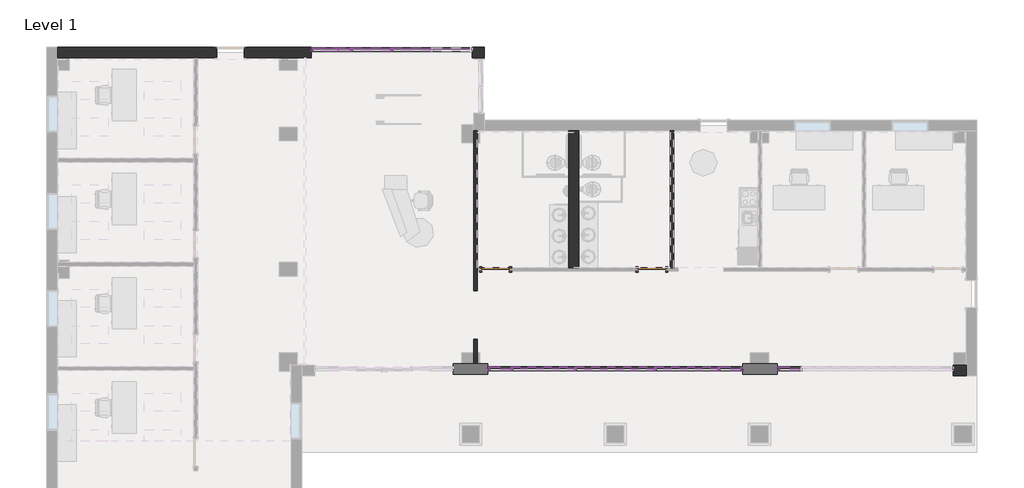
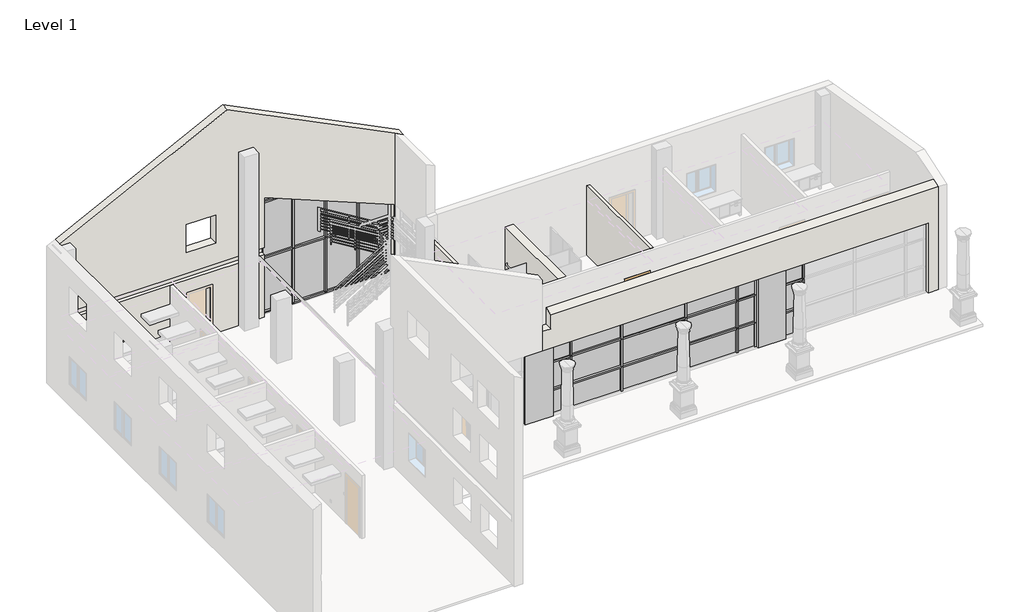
# One storey, part 2 of 8: 63 members, 29 plates, 6 walls, 2 doors.
"""IFC4 building model written with IfcOpenShell, lengths in millimetres."""

from ifc_helpers import new_model, si_unit, origin, origin_with_axes, place, context, project, spatial, polyline, outline, extrude, faceted_brep, transform, mapped, element, save
from components import door_eb9f8b14, door_88503111, member_a715cb85, member_2b49869a, member_4f1c84db, member_e69b4e5a, member_c7c5a8a0, member_13dc6413, member_3374d9b6, member_830c086e, member_f0fea5a5, member_ee409385, member_d635bea1, member_5783932f, member_ba1b3d85, member_98b79ab6, member_3ca69e07, member_308ea782, member_d4faf497, member_0a1949f2, member_c8a9c9a2, member_c459f87c, member_c4c0bdfb, member_631b13d6, member_2dfc6920, system_panel_glazed_93fe6fa7, system_panel_glazed_6ce5e085, system_panel_glazed_63f474c4, system_panel_glazed_4b691734, system_panel_glazed_53b4157c, system_panel_glazed_7b5ce646, system_panel_glazed_2dd6ead6, system_panel_glazed_6caac039, system_panel_glazed_ef97d2b3, system_panel_glazed_72e0a84c, system_panel_glazed_84a4ac58, system_panel_glazed_729bb18e, system_panel_glazed_b58b5e35, system_panel_glazed_53edb0c8, system_panel_solid_6039f36e, system_panel_solid_0ed6c75d

model = new_model("IFC4")

# Units and contexts
model_context = context("Model", 3, world=origin())
ifc_project = project(units=[si_unit("LENGTHUNIT", "METRE", prefix="MILLI")], contexts=[model_context])

# Site, building, storey
site = spatial("IfcSite", under=ifc_project)
building = spatial("IfcBuilding", under=site)
storey = spatial("IfcBuildingStorey", under=building, Name="Level 1", Elevation=0.0)

# Doors
placement = place(None, origin())
door_shape = door_eb9f8b14(model_context)
element("IfcDoor", 1, ObjectType="Single-Flush : 36\" x 84\"", at=placement, inside=storey, context=model_context, shape_type="MappedRepresentation", body=[
    mapped(door_shape, transform((1075.2733448, 3496.4480424, 0.0), x_axis=(-1.0, 0.0, 0.0), y_axis=(0.0, -1.0, 0.0), z_axis=(0.0, 0.0, 1.0))),
])
door_2_shape = door_88503111(model_context)
element("IfcDoor", 2, ObjectType="Single-Flush : 36\" x 84\"", at=placement, inside=storey, context=model_context, shape_type="MappedRepresentation", body=[
    mapped(door_2_shape, transform((6294.9733448, 3496.4480424, 0.0), x_axis=(1.0, 0.0, 0.0), y_axis=(0.0, 1.0, 0.0), z_axis=(0.0, 0.0, 1.0))),
])

# Members
member_shape = member_a715cb85(model_context)
element("IfcMember", 3, ObjectType="Rectangular Mullion : 2.5\" x 5\" Rectangular", at=placement, inside=storey, context=model_context, shape_type="MappedRepresentation", body=[
    mapped(member_shape, transform((1611.8483448, 175.3980424, 0.0), x_axis=(1.0, 0.0, 0.0), y_axis=(0.0, -1.0, 0.0), z_axis=(0.0, 0.0, -1.0))),
])
element("IfcMember", 4, ObjectType="Rectangular Mullion : 2.5\" x 5\" Rectangular", at=placement, inside=storey, context=model_context, shape_type="MappedRepresentation", body=[
    mapped(member_shape, transform((3745.4483448, 175.3980424, 0.0), x_axis=(1.0, 0.0, 0.0), y_axis=(0.0, -1.0, 0.0), z_axis=(0.0, 0.0, -1.0))),
])
element("IfcMember", 5, ObjectType="Rectangular Mullion : 2.5\" x 5\" Rectangular", at=placement, inside=storey, context=model_context, shape_type="MappedRepresentation", body=[
    mapped(member_shape, transform((6404.5108448, 175.3980424, 0.0), x_axis=(1.0, 0.0, 0.0), y_axis=(0.0, -1.0, 0.0), z_axis=(0.0, 0.0, -1.0))),
])
element("IfcMember", 6, ObjectType="Rectangular Mullion : 2.5\" x 5\" Rectangular", at=placement, inside=storey, context=model_context, shape_type="MappedRepresentation", body=[
    mapped(member_shape, transform((849.8483448, 175.3980424, 0.0), x_axis=(1.0, 0.0, 0.0), y_axis=(0.0, -1.0, 0.0), z_axis=(0.0, 0.0, -1.0))),
])
element("IfcMember", 7, ObjectType="Rectangular Mullion : 2.5\" x 5\" Rectangular", at=placement, inside=storey, context=model_context, shape_type="MappedRepresentation", body=[
    mapped(member_shape, transform((8538.1108448, 175.3980424, 0.0), x_axis=(1.0, 0.0, 0.0), y_axis=(0.0, -1.0, 0.0), z_axis=(0.0, 0.0, -1.0))),
])
element("IfcMember", 8, ObjectType="Rectangular Mullion : 2.5\" x 5\" Rectangular", at=placement, inside=storey, context=model_context, shape_type="MappedRepresentation", body=[
    mapped(member_shape, transform((9300.1108448, 175.3980424, 0.0), x_axis=(1.0, 0.0, 0.0), y_axis=(0.0, -1.0, 0.0), z_axis=(0.0, 0.0, -1.0))),
])
element("IfcMember", 9, ObjectType="Rectangular Mullion : 2.5\" x 5\" Rectangular", at=placement, inside=storey, context=model_context, shape_type="MappedRepresentation", body=[
    mapped(member_shape, transform((10519.3108448, 175.3980424, 0.0), x_axis=(1.0, 0.0, 0.0), y_axis=(0.0, -1.0, 0.0), z_axis=(0.0, 0.0, -1.0))),
])
element("IfcMember", 10, ObjectType="Rectangular Mullion : 2.5\" x 5\" Rectangular", at=placement, inside=storey, context=model_context, shape_type="MappedRepresentation", body=[
    mapped(member_shape, transform((11281.3108448, 175.3980424, 0.0), x_axis=(1.0, 0.0, 0.0), y_axis=(0.0, -1.0, 0.0), z_axis=(0.0, 0.0, -1.0))),
])
member_2_shape = member_2b49869a(model_context)
element("IfcMember", 11, ObjectType="Rectangular Mullion : 2.5\" x 5\" Rectangular", at=placement, inside=storey, context=model_context, shape_type="MappedRepresentation", body=[
    mapped(member_2_shape, transform((1611.8483448, 175.3980424, 1066.8), x_axis=(1.0, 0.0, 0.0), y_axis=(0.0, -1.0, 0.0), z_axis=(0.0, 0.0, -1.0))),
])
element("IfcMember", 12, ObjectType="Rectangular Mullion : 2.5\" x 5\" Rectangular", at=placement, inside=storey, context=model_context, shape_type="MappedRepresentation", body=[
    mapped(member_2_shape, transform((3745.4483448, 175.3980424, 1066.8), x_axis=(1.0, 0.0, 0.0), y_axis=(0.0, -1.0, 0.0), z_axis=(0.0, 0.0, -1.0))),
])
element("IfcMember", 13, ObjectType="Rectangular Mullion : 2.5\" x 5\" Rectangular", at=placement, inside=storey, context=model_context, shape_type="MappedRepresentation", body=[
    mapped(member_2_shape, transform((6404.5108448, 175.3980424, 1066.8), x_axis=(1.0, 0.0, 0.0), y_axis=(0.0, -1.0, 0.0), z_axis=(0.0, 0.0, -1.0))),
])
element("IfcMember", 14, ObjectType="Rectangular Mullion : 2.5\" x 5\" Rectangular", at=placement, inside=storey, context=model_context, shape_type="MappedRepresentation", body=[
    mapped(member_2_shape, transform((849.8483448, 175.3980424, 1066.8), x_axis=(1.0, 0.0, 0.0), y_axis=(0.0, -1.0, 0.0), z_axis=(0.0, 0.0, -1.0))),
])
element("IfcMember", 15, ObjectType="Rectangular Mullion : 2.5\" x 5\" Rectangular", at=placement, inside=storey, context=model_context, shape_type="MappedRepresentation", body=[
    mapped(member_2_shape, transform((8538.1108448, 175.3980424, 1066.8), x_axis=(1.0, 0.0, 0.0), y_axis=(0.0, -1.0, 0.0), z_axis=(0.0, 0.0, -1.0))),
])
element("IfcMember", 16, ObjectType="Rectangular Mullion : 2.5\" x 5\" Rectangular", at=placement, inside=storey, context=model_context, shape_type="MappedRepresentation", body=[
    mapped(member_2_shape, transform((9300.1108448, 175.3980424, 1066.8), x_axis=(1.0, 0.0, 0.0), y_axis=(0.0, -1.0, 0.0), z_axis=(0.0, 0.0, -1.0))),
])
element("IfcMember", 17, ObjectType="Rectangular Mullion : 2.5\" x 5\" Rectangular", at=placement, inside=storey, context=model_context, shape_type="MappedRepresentation", body=[
    mapped(member_2_shape, transform((10519.3108448, 175.3980424, 1066.8), x_axis=(1.0, 0.0, 0.0), y_axis=(0.0, -1.0, 0.0), z_axis=(0.0, 0.0, -1.0))),
])
element("IfcMember", 18, ObjectType="Rectangular Mullion : 2.5\" x 5\" Rectangular", at=placement, inside=storey, context=model_context, shape_type="MappedRepresentation", body=[
    mapped(member_2_shape, transform((11281.3108448, 175.3980424, 1066.8), x_axis=(1.0, 0.0, 0.0), y_axis=(0.0, -1.0, 0.0), z_axis=(0.0, 0.0, -1.0))),
])
member_3_shape = member_4f1c84db(model_context)
element("IfcMember", 19, ObjectType="Rectangular Mullion : 2.5\" x 5\" Rectangular", at=placement, inside=storey, context=model_context, shape_type="MappedRepresentation", body=[
    mapped(member_3_shape, transform((3713.6983448, 175.3980424, 2286.0), x_axis=(0.0, 0.0, 1.0), y_axis=(0.0, -1.0, 0.0), z_axis=(1.0, 0.0, 0.0))),
])
element("IfcMember", 20, ObjectType="Rectangular Mullion : 2.5\" x 5\" Rectangular", at=placement, inside=storey, context=model_context, shape_type="MappedRepresentation", body=[
    mapped(member_3_shape, transform((8506.3608448, 175.3980424, 2286.0), x_axis=(0.0, 0.0, 1.0), y_axis=(0.0, -1.0, 0.0), z_axis=(1.0, 0.0, 0.0))),
])
element("IfcMember", 21, ObjectType="Rectangular Mullion : 2.5\" x 5\" Rectangular", at=placement, inside=storey, context=model_context, shape_type="MappedRepresentation", body=[
    mapped(member_3_shape, transform((8506.3608448, 175.3980424, 1066.8), x_axis=(0.0, 0.0, 1.0), y_axis=(0.0, -1.0, 0.0), z_axis=(1.0, 0.0, 0.0))),
])
element("IfcMember", 22, ObjectType="Rectangular Mullion : 2.5\" x 5\" Rectangular", at=placement, inside=storey, context=model_context, shape_type="MappedRepresentation", body=[
    mapped(member_3_shape, transform((3713.6983448, 175.3980424, 1066.8), x_axis=(0.0, 0.0, 1.0), y_axis=(0.0, -1.0, 0.0), z_axis=(1.0, 0.0, 0.0))),
])
member_4_shape = member_e69b4e5a(model_context)
element("IfcMember", 23, ObjectType="Rectangular Mullion : 2.5\" x 5\" Rectangular", at=placement, inside=storey, context=model_context, shape_type="MappedRepresentation", body=[
    mapped(member_4_shape, transform((6372.7608448, 175.3980424, 2286.0), x_axis=(0.0, 0.0, 1.0), y_axis=(0.0, -1.0, 0.0), z_axis=(1.0, 0.0, 0.0))),
])
element("IfcMember", 24, ObjectType="Rectangular Mullion : 2.5\" x 5\" Rectangular", at=placement, inside=storey, context=model_context, shape_type="MappedRepresentation", body=[
    mapped(member_4_shape, transform((6372.7608448, 175.3980424, 1066.8), x_axis=(0.0, 0.0, 1.0), y_axis=(0.0, -1.0, 0.0), z_axis=(1.0, 0.0, 0.0))),
])
member_5_shape = member_c7c5a8a0(model_context)
element("IfcMember", 25, ObjectType="Rectangular Mullion : 2.5\" x 5\" Rectangular", at=placement, inside=storey, context=model_context, shape_type="MappedRepresentation", body=[
    mapped(member_5_shape, transform((1580.0983448, 175.3980424, 2286.0), x_axis=(0.0, 0.0, 1.0), y_axis=(0.0, -1.0, 0.0), z_axis=(1.0, 0.0, 0.0))),
])
element("IfcMember", 26, ObjectType="Rectangular Mullion : 2.5\" x 5\" Rectangular", at=placement, inside=storey, context=model_context, shape_type="MappedRepresentation", body=[
    mapped(member_5_shape, transform((11249.5608448, 175.3980424, 2286.0), x_axis=(0.0, 0.0, 1.0), y_axis=(0.0, -1.0, 0.0), z_axis=(1.0, 0.0, 0.0))),
])
element("IfcMember", 27, ObjectType="Rectangular Mullion : 2.5\" x 5\" Rectangular", at=placement, inside=storey, context=model_context, shape_type="MappedRepresentation", body=[
    mapped(member_5_shape, transform((9268.3608448, 175.3980424, 2286.0), x_axis=(0.0, 0.0, 1.0), y_axis=(0.0, -1.0, 0.0), z_axis=(1.0, 0.0, 0.0))),
])
element("IfcMember", 28, ObjectType="Rectangular Mullion : 2.5\" x 5\" Rectangular", at=placement, inside=storey, context=model_context, shape_type="MappedRepresentation", body=[
    mapped(member_5_shape, transform((11249.5608448, 175.3980424, 1066.8), x_axis=(0.0, 0.0, 1.0), y_axis=(0.0, -1.0, 0.0), z_axis=(1.0, 0.0, 0.0))),
])
element("IfcMember", 29, ObjectType="Rectangular Mullion : 2.5\" x 5\" Rectangular", at=placement, inside=storey, context=model_context, shape_type="MappedRepresentation", body=[
    mapped(member_5_shape, transform((1580.0983448, 175.3980424, 1066.8), x_axis=(0.0, 0.0, 1.0), y_axis=(0.0, -1.0, 0.0), z_axis=(1.0, 0.0, 0.0))),
])
element("IfcMember", 30, ObjectType="Rectangular Mullion : 2.5\" x 5\" Rectangular", at=placement, inside=storey, context=model_context, shape_type="MappedRepresentation", body=[
    mapped(member_5_shape, transform((9268.3608448, 175.3980424, 1066.8), x_axis=(0.0, 0.0, 1.0), y_axis=(0.0, -1.0, 0.0), z_axis=(1.0, 0.0, 0.0))),
])
member_6_shape = member_13dc6413(model_context)
element("IfcMember", 31, ObjectType="Rectangular Mullion : 2.5\" x 5\" Rectangular", at=placement, inside=storey, context=model_context, shape_type="MappedRepresentation", body=[
    mapped(member_6_shape, transform((9331.8608448, 175.3980424, 3060.0), x_axis=(0.0, 0.0, 1.0), y_axis=(0.0, -1.0, 0.0), z_axis=(1.0, 0.0, 0.0))),
])
element("IfcMember", 32, ObjectType="Rectangular Mullion : 2.5\" x 5\" Rectangular", at=placement, inside=storey, context=model_context, shape_type="MappedRepresentation", body=[
    mapped(member_6_shape, transform((11281.3108448, 175.3980424, 3060.0), x_axis=(0.0, 0.0, 1.0), y_axis=(0.0, -1.0, 0.0), z_axis=(1.0, 0.0, 0.0))),
])
element("IfcMember", 33, ObjectType="Rectangular Mullion : 2.5\" x 5\" Rectangular", at=placement, inside=storey, context=model_context, shape_type="MappedRepresentation", body=[
    mapped(member_6_shape, transform((1611.8483448, 175.3980424, 3060.0), x_axis=(0.0, 0.0, 1.0), y_axis=(0.0, -1.0, 0.0), z_axis=(1.0, 0.0, 0.0))),
])
member_7_shape = member_3374d9b6(model_context)
element("IfcMember", 34, ObjectType="Rectangular Mullion : 2.5\" x 5\" Rectangular", at=placement, inside=storey, context=model_context, shape_type="MappedRepresentation", body=[
    mapped(member_7_shape, transform((3745.4483448, 175.3980424, 3060.0), x_axis=(0.0, 0.0, 1.0), y_axis=(0.0, -1.0, 0.0), z_axis=(1.0, 0.0, 0.0))),
])
element("IfcMember", 35, ObjectType="Rectangular Mullion : 2.5\" x 5\" Rectangular", at=placement, inside=storey, context=model_context, shape_type="MappedRepresentation", body=[
    mapped(member_7_shape, transform((8538.1108448, 175.3980424, 3060.0), x_axis=(0.0, 0.0, 1.0), y_axis=(0.0, -1.0, 0.0), z_axis=(1.0, 0.0, 0.0))),
])
member_8_shape = member_830c086e(model_context)
element("IfcMember", 36, ObjectType="Rectangular Mullion : 2.5\" x 5\" Rectangular", at=placement, inside=storey, context=model_context, shape_type="MappedRepresentation", body=[
    mapped(member_8_shape, transform((6404.5108448, 175.3980424, 3060.0), x_axis=(0.0, 0.0, 1.0), y_axis=(0.0, -1.0, 0.0), z_axis=(1.0, 0.0, 0.0))),
])
member_9_shape = member_f0fea5a5(model_context)
element("IfcMember", 37, ObjectType="Rectangular Mullion : 2.5\" x 5\" Rectangular", at=placement, inside=storey, context=model_context, shape_type="MappedRepresentation", body=[
    mapped(member_9_shape, transform((-3747.5516552, 10846.5730424, 0.0), x_axis=(1.0, 0.0, 0.0), y_axis=(0.0, -1.0, 0.0), z_axis=(0.0, 0.0, -1.0))),
])
element("IfcMember", 38, ObjectType="Rectangular Mullion : 2.5\" x 5\" Rectangular", at=placement, inside=storey, context=model_context, shape_type="MappedRepresentation", body=[
    mapped(member_9_shape, transform((-2401.3516552, 10846.5730424, 0.0), x_axis=(1.0, 0.0, 0.0), y_axis=(0.0, -1.0, 0.0), z_axis=(0.0, 0.0, -1.0))),
])
element("IfcMember", 39, ObjectType="Rectangular Mullion : 2.5\" x 5\" Rectangular", at=placement, inside=storey, context=model_context, shape_type="MappedRepresentation", body=[
    mapped(member_9_shape, transform((-1055.1516552, 10846.5730424, 0.0), x_axis=(1.0, 0.0, 0.0), y_axis=(0.0, -1.0, 0.0), z_axis=(0.0, 0.0, -1.0))),
])
member_10_shape = member_ee409385(model_context)
element("IfcMember", 40, ObjectType="Rectangular Mullion : 2.5\" x 5\" Rectangular", at=placement, inside=storey, context=model_context, shape_type="MappedRepresentation", body=[
    mapped(member_10_shape, transform((-5093.7516552, 10846.5730424, 2438.4), x_axis=(-1.0, 0.0, 0.0), y_axis=(0.0, -1.0, 0.0), z_axis=(0.0, 0.0, 1.0))),
])
member_11_shape = member_d635bea1(model_context)
element("IfcMember", 41, ObjectType="Rectangular Mullion : 2.5\" x 5\" Rectangular", at=placement, inside=storey, context=model_context, shape_type="MappedRepresentation", body=[
    mapped(member_11_shape, transform((-5030.2516552, 10846.5730424, 0.0), x_axis=(0.0, 0.0, -1.0), y_axis=(0.0, -1.0, 0.0), z_axis=(-1.0, 0.0, 0.0))),
])
element("IfcMember", 42, ObjectType="Rectangular Mullion : 2.5\" x 5\" Rectangular", at=placement, inside=storey, context=model_context, shape_type="MappedRepresentation", body=[
    mapped(member_11_shape, transform((-1023.4016552, 10846.5730424, 0.0), x_axis=(0.0, 0.0, -1.0), y_axis=(0.0, -1.0, 0.0), z_axis=(-1.0, 0.0, 0.0))),
])
member_12_shape = member_5783932f(model_context)
element("IfcMember", 43, ObjectType="Rectangular Mullion : 2.5\" x 5\" Rectangular", at=placement, inside=storey, context=model_context, shape_type="MappedRepresentation", body=[
    mapped(member_12_shape, transform((-3715.8016552, 10846.5730424, 0.0), x_axis=(0.0, 0.0, -1.0), y_axis=(0.0, -1.0, 0.0), z_axis=(-1.0, 0.0, 0.0))),
])
element("IfcMember", 44, ObjectType="Rectangular Mullion : 2.5\" x 5\" Rectangular", at=placement, inside=storey, context=model_context, shape_type="MappedRepresentation", body=[
    mapped(member_12_shape, transform((-2369.6016552, 10846.5730424, 0.0), x_axis=(0.0, 0.0, -1.0), y_axis=(0.0, -1.0, 0.0), z_axis=(-1.0, 0.0, 0.0))),
])
member_13_shape = member_ba1b3d85(model_context)
element("IfcMember", 45, ObjectType="Rectangular Mullion : 2.5\" x 5\" Rectangular", at=placement, inside=storey, context=model_context, shape_type="MappedRepresentation", body=[
    mapped(member_13_shape, transform((-3779.3016552, 10846.5730424, 2438.4), x_axis=(0.0, 0.0, 1.0), y_axis=(0.0, -1.0, 0.0), z_axis=(1.0, 0.0, 0.0))),
])
member_14_shape = member_98b79ab6(model_context)
element("IfcMember", 46, ObjectType="Rectangular Mullion : 2.5\" x 5\" Rectangular", at=placement, inside=storey, context=model_context, shape_type="MappedRepresentation", body=[
    mapped(member_14_shape, transform((-2433.1016552, 10846.5730424, 2438.4), x_axis=(0.0, 0.0, 1.0), y_axis=(0.0, -1.0, 0.0), z_axis=(1.0, 0.0, 0.0))),
])
element("IfcMember", 47, ObjectType="Rectangular Mullion : 2.5\" x 5\" Rectangular", at=placement, inside=storey, context=model_context, shape_type="MappedRepresentation", body=[
    mapped(member_14_shape, transform((-1086.9016552, 10846.5730424, 2438.4), x_axis=(0.0, 0.0, 1.0), y_axis=(0.0, -1.0, 0.0), z_axis=(1.0, 0.0, 0.0))),
])
element("IfcMember", 48, ObjectType="Rectangular Mullion : 2.5\" x 5\" Rectangular", at=placement, inside=storey, context=model_context, shape_type="MappedRepresentation", body=[
    mapped(member_10_shape, transform((-5093.7516552, 10846.5730424, 4876.8), x_axis=(-1.0, 0.0, 0.0), y_axis=(0.0, -1.0, 0.0), z_axis=(0.0, 0.0, 1.0))),
])
member_15_shape = member_3ca69e07(model_context)
element("IfcMember", 49, ObjectType="Rectangular Mullion : 2.5\" x 5\" Rectangular", at=placement, inside=storey, context=model_context, shape_type="MappedRepresentation", body=[
    mapped(member_15_shape, transform((1611.8483448, 175.3980424, 2286.0), x_axis=(1.0, 0.0, 0.0), y_axis=(0.0, -1.0, 0.0), z_axis=(0.0, 0.0, -1.0))),
])
element("IfcMember", 50, ObjectType="Rectangular Mullion : 2.5\" x 5\" Rectangular", at=placement, inside=storey, context=model_context, shape_type="MappedRepresentation", body=[
    mapped(member_15_shape, transform((3745.4483448, 175.3980424, 2286.0), x_axis=(1.0, 0.0, 0.0), y_axis=(0.0, -1.0, 0.0), z_axis=(0.0, 0.0, -1.0))),
])
element("IfcMember", 51, ObjectType="Rectangular Mullion : 2.5\" x 5\" Rectangular", at=placement, inside=storey, context=model_context, shape_type="MappedRepresentation", body=[
    mapped(member_15_shape, transform((6404.5108448, 175.3980424, 2286.0), x_axis=(1.0, 0.0, 0.0), y_axis=(0.0, -1.0, 0.0), z_axis=(0.0, 0.0, -1.0))),
])
element("IfcMember", 52, ObjectType="Rectangular Mullion : 2.5\" x 5\" Rectangular", at=placement, inside=storey, context=model_context, shape_type="MappedRepresentation", body=[
    mapped(member_15_shape, transform((849.8483448, 175.3980424, 2286.0), x_axis=(1.0, 0.0, 0.0), y_axis=(0.0, -1.0, 0.0), z_axis=(0.0, 0.0, -1.0))),
])
element("IfcMember", 53, ObjectType="Rectangular Mullion : 2.5\" x 5\" Rectangular", at=placement, inside=storey, context=model_context, shape_type="MappedRepresentation", body=[
    mapped(member_15_shape, transform((8538.1108448, 175.3980424, 2286.0), x_axis=(1.0, 0.0, 0.0), y_axis=(0.0, -1.0, 0.0), z_axis=(0.0, 0.0, -1.0))),
])
element("IfcMember", 54, ObjectType="Rectangular Mullion : 2.5\" x 5\" Rectangular", at=placement, inside=storey, context=model_context, shape_type="MappedRepresentation", body=[
    mapped(member_15_shape, transform((9300.1108448, 175.3980424, 2286.0), x_axis=(1.0, 0.0, 0.0), y_axis=(0.0, -1.0, 0.0), z_axis=(0.0, 0.0, -1.0))),
])
element("IfcMember", 55, ObjectType="Rectangular Mullion : 2.5\" x 5\" Rectangular", at=placement, inside=storey, context=model_context, shape_type="MappedRepresentation", body=[
    mapped(member_15_shape, transform((10519.3108448, 175.3980424, 2286.0), x_axis=(1.0, 0.0, 0.0), y_axis=(0.0, -1.0, 0.0), z_axis=(0.0, 0.0, -1.0))),
])
element("IfcMember", 56, ObjectType="Rectangular Mullion : 2.5\" x 5\" Rectangular", at=placement, inside=storey, context=model_context, shape_type="MappedRepresentation", body=[
    mapped(member_15_shape, transform((11281.3108448, 175.3980424, 2286.0), x_axis=(1.0, 0.0, 0.0), y_axis=(0.0, -1.0, 0.0), z_axis=(0.0, 0.0, -1.0))),
])
member_16_shape = member_308ea782(model_context)
element("IfcMember", 57, ObjectType="Rectangular Mullion : 2.5\" x 5\" Rectangular", at=placement, inside=storey, context=model_context, shape_type="MappedRepresentation", body=[
    mapped(member_16_shape, transform((-3747.5516552, 10846.5730424, 4714.8593419), x_axis=(0.3791636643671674, 0.0, 0.9253296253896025), y_axis=(0.0, -1.0, 0.0), z_axis=(0.9253296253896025, 0.0, -0.3791636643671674))),
])
member_17_shape = member_d4faf497(model_context)
element("IfcMember", 58, ObjectType="Rectangular Mullion : 2.5\" x 5\" Rectangular", at=placement, inside=storey, context=model_context, shape_type="MappedRepresentation", body=[
    mapped(member_17_shape, transform((-2401.3516552, 10846.5730424, 4163.2395613), x_axis=(0.37916366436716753, 0.0, 0.9253296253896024), y_axis=(0.0, -1.0, 0.0), z_axis=(0.9253296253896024, 0.0, -0.37916366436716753))),
])
element("IfcMember", 59, ObjectType="Rectangular Mullion : 2.5\" x 5\" Rectangular", at=placement, inside=storey, context=model_context, shape_type="MappedRepresentation", body=[
    mapped(member_17_shape, transform((-1055.1516552, 10846.5730424, 3611.6197806), x_axis=(0.37916366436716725, 0.0, 0.9253296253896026), y_axis=(0.0, -1.0, 0.0), z_axis=(0.9253296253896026, 0.0, -0.37916366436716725))),
])
member_18_shape = member_0a1949f2(model_context)
element("IfcMember", 60, ObjectType="Rectangular Mullion : 2.5\" x 5\" Rectangular", at=placement, inside=storey, context=model_context, shape_type="MappedRepresentation", body=[
    mapped(member_18_shape, transform((-3747.5516552, 10846.5730424, 2438.4), x_axis=(1.0, 0.0, 0.0), y_axis=(0.0, -1.0, 0.0), z_axis=(0.0, 0.0, -1.0))),
])
member_19_shape = member_c8a9c9a2(model_context)
element("IfcMember", 61, ObjectType="Rectangular Mullion : 2.5\" x 5\" Rectangular", at=placement, inside=storey, context=model_context, shape_type="MappedRepresentation", body=[
    mapped(member_19_shape, transform((-2401.3516552, 10846.5730424, 2438.4), x_axis=(1.0, 0.0, 0.0), y_axis=(0.0, -1.0, 0.0), z_axis=(0.0, 0.0, -1.0))),
])
member_20_shape = member_c459f87c(model_context)
element("IfcMember", 62, ObjectType="Rectangular Mullion : 2.5\" x 5\" Rectangular", at=placement, inside=storey, context=model_context, shape_type="MappedRepresentation", body=[
    mapped(member_20_shape, transform((-1055.1516552, 10846.5730424, 2438.4), x_axis=(1.0, 0.0, 0.0), y_axis=(0.0, -1.0, 0.0), z_axis=(0.0, 0.0, -1.0))),
])
member_21_shape = member_c4c0bdfb(model_context)
element("IfcMember", 63, ObjectType="Rectangular Mullion : 2.5\" x 5\" Rectangular", at=placement, inside=storey, context=model_context, shape_type="MappedRepresentation", body=[
    mapped(member_21_shape, transform((-4142.7595893, 10846.5730424, 4876.8), x_axis=(0.37916366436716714, 0.0, 0.9253296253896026), y_axis=(0.0, -1.0, 0.0), z_axis=(0.9253296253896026, 0.0, -0.37916366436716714))),
])
member_22_shape = member_631b13d6(model_context)
element("IfcMember", 64, ObjectType="Rectangular Mullion : 2.5\" x 5\" Rectangular", at=placement, inside=storey, context=model_context, shape_type="MappedRepresentation", body=[
    mapped(member_22_shape, transform((-4142.7595893, 10846.5730424, 4876.8), x_axis=(0.0, 0.0, 1.0), y_axis=(0.0, -1.0, 0.0), z_axis=(1.0, 0.0, 0.0))),
])
member_23_shape = member_2dfc6920(model_context)
element("IfcMember", 65, ObjectType="Rectangular Mullion : 2.5\" x 5\" Rectangular", at=placement, inside=storey, context=model_context, shape_type="MappedRepresentation", body=[
    mapped(member_23_shape, transform((-5093.7516552, 10846.5730424, 5266.4791225), x_axis=(-1.0, 0.0, 0.0), y_axis=(0.0, -1.0, 0.0), z_axis=(0.0, 0.0, 1.0))),
])

# Plates
element("IfcPlate", 66, ObjectType="Exterior - Brick on Mtl. Stud", at=placement, inside=storey, context=model_context, shape_type="Brep", body=[
    faceted_brep([(-337.6016552, -0.8144576, 0.0), (818.0983448, -0.8144576, 0.0), (818.0983448, -0.8144576, 3060.0), (-337.6016552, -0.8144576, 3060.0), (-337.6016552, 351.6105424, 0.0), (-337.6016552, 351.6105424, 3060.0), (-64.5516552, 351.6105424, 3060.0), (341.8483448, 351.6105424, 3060.0), (465.6733448, 351.6105424, 3060.0), (545.0483448, 351.6105424, 3060.0), (818.0983448, 351.6105424, 3060.0), (818.0983448, 351.6105424, 0.0), (545.0483448, 351.6105424, 0.0), (465.6733448, 351.6105424, 0.0), (341.8483448, 351.6105424, 0.0), (-64.5516552, 351.6105424, 0.0)], [[[0, 1, 2, 3]], [[4, 5, 6, 7, 8, 9, 10, 11, 12, 13, 14, 15]], [[1, 0, 4, 15, 14, 13, 12, 11]], [[2, 1, 11, 10]], [[3, 2, 10, 9, 8, 7, 6, 5]], [[0, 3, 5, 4]]]),
])
element("IfcPlate", 67, ObjectType="Exterior - Brick on Mtl. Stud", at=placement, inside=storey, context=model_context, shape_type="Brep", body=[
    faceted_brep([(9331.8608448, -0.8144576, 0.0), (10487.5608448, -0.8144576, 0.0), (10487.5608448, -0.8144576, 3060.0), (9331.8608448, -0.8144576, 3060.0), (9331.8608448, 351.6105424, 0.0), (9331.8608448, 351.6105424, 3060.0), (9587.4483448, 351.6105424, 3060.0), (10197.0483448, 351.6105424, 3060.0), (10487.5608448, 351.6105424, 3060.0), (10487.5608448, 351.6105424, 0.0), (10197.0483448, 351.6105424, 0.0), (9587.4483448, 351.6105424, 0.0)], [[[0, 1, 2, 3]], [[4, 5, 6, 7, 8, 9, 10, 11]], [[1, 0, 4, 11, 10, 9]], [[2, 1, 9, 8]], [[3, 2, 8, 7, 6, 5]], [[0, 3, 5, 4]]]),
])
system_panel_glazed_shape = system_panel_glazed_93fe6fa7(model_context)
element("IfcPlate", 68, ObjectType="System Panel : Glazed", at=placement, inside=storey, context=model_context, shape_type="MappedRepresentation", body=[
    mapped(system_panel_glazed_shape, transform((2678.6483448, 175.3980424, 0.0), x_axis=(1.0, 0.0, 0.0), y_axis=(0.0, 1.0, 0.0), z_axis=(0.0, 0.0, 1.0))),
])
element("IfcPlate", 69, ObjectType="System Panel : Glazed", at=placement, inside=storey, context=model_context, shape_type="MappedRepresentation", body=[
    mapped(system_panel_glazed_shape, transform((7471.3108448, 175.3980424, 0.0), x_axis=(1.0, 0.0, 0.0), y_axis=(0.0, 1.0, 0.0), z_axis=(0.0, 0.0, 1.0))),
])
system_panel_glazed_2_shape = system_panel_glazed_6ce5e085(model_context)
element("IfcPlate", 70, ObjectType="System Panel : Glazed", at=placement, inside=storey, context=model_context, shape_type="MappedRepresentation", body=[
    mapped(system_panel_glazed_2_shape, transform((2678.6483448, 175.3980424, 1098.55), x_axis=(1.0, 0.0, 0.0), y_axis=(0.0, 1.0, 0.0), z_axis=(0.0, 0.0, 1.0))),
])
element("IfcPlate", 71, ObjectType="System Panel : Glazed", at=placement, inside=storey, context=model_context, shape_type="MappedRepresentation", body=[
    mapped(system_panel_glazed_2_shape, transform((7471.3108448, 175.3980424, 1098.55), x_axis=(1.0, 0.0, 0.0), y_axis=(0.0, 1.0, 0.0), z_axis=(0.0, 0.0, 1.0))),
])
system_panel_glazed_3_shape = system_panel_glazed_63f474c4(model_context)
element("IfcPlate", 72, ObjectType="System Panel : Glazed", at=placement, inside=storey, context=model_context, shape_type="MappedRepresentation", body=[
    mapped(system_panel_glazed_3_shape, transform((5074.9795948, 175.3980424, 0.0), x_axis=(1.0, 0.0, 0.0), y_axis=(0.0, 1.0, 0.0), z_axis=(0.0, 0.0, 1.0))),
])
system_panel_glazed_4_shape = system_panel_glazed_4b691734(model_context)
element("IfcPlate", 73, ObjectType="System Panel : Glazed", at=placement, inside=storey, context=model_context, shape_type="MappedRepresentation", body=[
    mapped(system_panel_glazed_4_shape, transform((5074.9795948, 175.3980424, 1098.55), x_axis=(1.0, 0.0, 0.0), y_axis=(0.0, 1.0, 0.0), z_axis=(0.0, 0.0, 1.0))),
])
system_panel_glazed_5_shape = system_panel_glazed_53b4157c(model_context)
element("IfcPlate", 74, ObjectType="System Panel : Glazed", at=placement, inside=storey, context=model_context, shape_type="MappedRepresentation", body=[
    mapped(system_panel_glazed_5_shape, transform((1230.8483448, 175.3980424, 0.0), x_axis=(1.0, 0.0, 0.0), y_axis=(0.0, 1.0, 0.0), z_axis=(0.0, 0.0, 1.0))),
])
element("IfcPlate", 75, ObjectType="System Panel : Glazed", at=placement, inside=storey, context=model_context, shape_type="MappedRepresentation", body=[
    mapped(system_panel_glazed_5_shape, transform((10900.3108448, 175.3980424, 0.0), x_axis=(1.0, 0.0, 0.0), y_axis=(0.0, 1.0, 0.0), z_axis=(0.0, 0.0, 1.0))),
])
element("IfcPlate", 76, ObjectType="System Panel : Glazed", at=placement, inside=storey, context=model_context, shape_type="MappedRepresentation", body=[
    mapped(system_panel_glazed_5_shape, transform((8919.1108448, 175.3980424, 0.0), x_axis=(1.0, 0.0, 0.0), y_axis=(0.0, 1.0, 0.0), z_axis=(0.0, 0.0, 1.0))),
])
system_panel_glazed_6_shape = system_panel_glazed_7b5ce646(model_context)
element("IfcPlate", 77, ObjectType="System Panel : Glazed", at=placement, inside=storey, context=model_context, shape_type="MappedRepresentation", body=[
    mapped(system_panel_glazed_6_shape, transform((1230.8483448, 175.3980424, 1098.55), x_axis=(1.0, 0.0, 0.0), y_axis=(0.0, 1.0, 0.0), z_axis=(0.0, 0.0, 1.0))),
])
element("IfcPlate", 78, ObjectType="System Panel : Glazed", at=placement, inside=storey, context=model_context, shape_type="MappedRepresentation", body=[
    mapped(system_panel_glazed_6_shape, transform((10900.3108448, 175.3980424, 1098.55), x_axis=(1.0, 0.0, 0.0), y_axis=(0.0, 1.0, 0.0), z_axis=(0.0, 0.0, 1.0))),
])
element("IfcPlate", 79, ObjectType="System Panel : Glazed", at=placement, inside=storey, context=model_context, shape_type="MappedRepresentation", body=[
    mapped(system_panel_glazed_6_shape, transform((8919.1108448, 175.3980424, 1098.55), x_axis=(1.0, 0.0, 0.0), y_axis=(0.0, 1.0, 0.0), z_axis=(0.0, 0.0, 1.0))),
])
system_panel_glazed_7_shape = system_panel_glazed_2dd6ead6(model_context)
element("IfcPlate", 80, ObjectType="System Panel : Glazed", at=placement, inside=storey, context=model_context, shape_type="MappedRepresentation", body=[
    mapped(system_panel_glazed_7_shape, transform((-4404.7766552, 10846.5730424, 63.5), x_axis=(1.0, 0.0, 0.0), y_axis=(0.0, 1.0, 0.0), z_axis=(0.0, 0.0, 1.0))),
])
element("IfcPlate", 81, ObjectType="System Panel : Glazed", at=placement, inside=storey, context=model_context, shape_type="MappedRepresentation", body=[
    mapped(system_panel_glazed_7_shape, transform((-397.9266552, 10846.5730424, 63.5), x_axis=(1.0, 0.0, 0.0), y_axis=(0.0, 1.0, 0.0), z_axis=(0.0, 0.0, 1.0))),
])
system_panel_glazed_8_shape = system_panel_glazed_6caac039(model_context)
element("IfcPlate", 82, ObjectType="System Panel : Glazed", at=placement, inside=storey, context=model_context, shape_type="MappedRepresentation", body=[
    mapped(system_panel_glazed_8_shape, transform((-3074.4516552, 10846.5730424, 63.5), x_axis=(1.0, 0.0, 0.0), y_axis=(0.0, 1.0, 0.0), z_axis=(0.0, 0.0, 1.0))),
])
element("IfcPlate", 83, ObjectType="System Panel : Glazed", at=placement, inside=storey, context=model_context, shape_type="MappedRepresentation", body=[
    mapped(system_panel_glazed_8_shape, transform((-1728.2516552, 10846.5730424, 63.5), x_axis=(1.0, 0.0, 0.0), y_axis=(0.0, 1.0, 0.0), z_axis=(0.0, 0.0, 1.0))),
])
system_panel_glazed_9_shape = system_panel_glazed_ef97d2b3(model_context)
element("IfcPlate", 84, ObjectType="System Panel : Glazed", at=placement, inside=storey, context=model_context, shape_type="MappedRepresentation", body=[
    mapped(system_panel_glazed_9_shape, transform((2678.6483448, 175.3980424, 2317.75), x_axis=(1.0, 0.0, 0.0), y_axis=(0.0, 1.0, 0.0), z_axis=(0.0, 0.0, 1.0))),
])
element("IfcPlate", 85, ObjectType="System Panel : Glazed", at=placement, inside=storey, context=model_context, shape_type="MappedRepresentation", body=[
    mapped(system_panel_glazed_9_shape, transform((7471.3108448, 175.3980424, 2317.75), x_axis=(1.0, 0.0, 0.0), y_axis=(0.0, 1.0, 0.0), z_axis=(0.0, 0.0, 1.0))),
])
system_panel_glazed_10_shape = system_panel_glazed_72e0a84c(model_context)
element("IfcPlate", 86, ObjectType="System Panel : Glazed", at=placement, inside=storey, context=model_context, shape_type="MappedRepresentation", body=[
    mapped(system_panel_glazed_10_shape, transform((-4404.7766552, 10846.5730424, 2470.15), x_axis=(1.0, 0.0, 0.0), y_axis=(0.0, 1.0, 0.0), z_axis=(0.0, 0.0, 1.0))),
])
system_panel_glazed_11_shape = system_panel_glazed_84a4ac58(model_context)
element("IfcPlate", 87, ObjectType="System Panel : Glazed", at=placement, inside=storey, context=model_context, shape_type="MappedRepresentation", body=[
    mapped(system_panel_glazed_11_shape, transform((-3074.4516552, 10846.5730424, 2470.15), x_axis=(1.0, 0.0, 0.0), y_axis=(0.0, 1.0, 0.0), z_axis=(0.0, 0.0, 1.0))),
])
system_panel_glazed_12_shape = system_panel_glazed_729bb18e(model_context)
element("IfcPlate", 88, ObjectType="System Panel : Glazed", at=placement, inside=storey, context=model_context, shape_type="MappedRepresentation", body=[
    mapped(system_panel_glazed_12_shape, transform((-1728.2516552, 10846.5730424, 2470.15), x_axis=(1.0, 0.0, 0.0), y_axis=(0.0, 1.0, 0.0), z_axis=(0.0, 0.0, 1.0))),
])
system_panel_glazed_13_shape = system_panel_glazed_b58b5e35(model_context)
element("IfcPlate", 89, ObjectType="System Panel : Glazed", at=placement, inside=storey, context=model_context, shape_type="MappedRepresentation", body=[
    mapped(system_panel_glazed_13_shape, transform((-397.9266552, 10846.5730424, 2470.15), x_axis=(1.0, 0.0, 0.0), y_axis=(0.0, 1.0, 0.0), z_axis=(0.0, 0.0, 1.0))),
])
system_panel_glazed_14_shape = system_panel_glazed_53edb0c8(model_context)
element("IfcPlate", 90, ObjectType="System Panel : Glazed", at=placement, inside=storey, context=model_context, shape_type="MappedRepresentation", body=[
    mapped(system_panel_glazed_14_shape, transform((-4708.9846786, 10846.5730424, 4908.55), x_axis=(1.0, 0.0, 0.0), y_axis=(0.0, 1.0, 0.0), z_axis=(0.0, 0.0, 1.0))),
])
system_panel_solid_shape = system_panel_solid_6039f36e(model_context)
element("IfcPlate", 91, ObjectType="System Panel : Solid", at=placement, inside=storey, context=model_context, shape_type="MappedRepresentation", body=[
    mapped(system_panel_solid_shape, transform((1230.8483448, 175.3980424, 2317.75), x_axis=(1.0, 0.0, 0.0), y_axis=(0.0, 1.0, 0.0), z_axis=(0.0, 0.0, 1.0))),
])
element("IfcPlate", 92, ObjectType="System Panel : Solid", at=placement, inside=storey, context=model_context, shape_type="MappedRepresentation", body=[
    mapped(system_panel_solid_shape, transform((10900.3108448, 175.3980424, 2317.75), x_axis=(1.0, 0.0, 0.0), y_axis=(0.0, 1.0, 0.0), z_axis=(0.0, 0.0, 1.0))),
])
element("IfcPlate", 93, ObjectType="System Panel : Solid", at=placement, inside=storey, context=model_context, shape_type="MappedRepresentation", body=[
    mapped(system_panel_solid_shape, transform((8919.1108448, 175.3980424, 2317.75), x_axis=(1.0, 0.0, 0.0), y_axis=(0.0, 1.0, 0.0), z_axis=(0.0, 0.0, 1.0))),
])
system_panel_solid_2_shape = system_panel_solid_0ed6c75d(model_context)
element("IfcPlate", 94, ObjectType="System Panel : Solid", at=placement, inside=storey, context=model_context, shape_type="MappedRepresentation", body=[
    mapped(system_panel_solid_2_shape, transform((5074.9795948, 175.3980424, 2317.75), x_axis=(1.0, 0.0, 0.0), y_axis=(0.0, 1.0, 0.0), z_axis=(0.0, 0.0, 1.0))),
])

# Walls
element("IfcWall", 95, ObjectType="Exterior - Brick on Mtl. Stud", at=placement, inside=storey, context=model_context, shape_type="Brep", body=[
    faceted_brep([(-8246.5266552, 10568.7605424, 0.0), (-8246.5266552, 10568.7605424, 2133.6), (-7332.1266552, 10568.7605424, 2133.6), (-7332.1266552, 10568.7605424, 0.0), (-6160.5516552, 10568.7605424, 0.0), (-5550.9516552, 10568.7605424, 0.0), (-5093.7516552, 10568.7605424, 0.0), (-5093.7516552, 10568.7605424, 2755.2), (-5273.1391552, 10568.7605424, 2755.2), (-5323.9391552, 10568.7605424, 2755.2), (-8887.8766552, 10568.7605424, 2755.2), (-9011.7016552, 10568.7605424, 2755.2), (-13583.7016552, 10568.7605424, 2755.2), (-13583.7016552, 10568.7605424, 0.0), (-13170.9516552, 10568.7605424, 0.0), (-9011.7016552, 10568.7605424, 0.0), (-8887.8766552, 10568.7605424, 0.0), (694.2733448, 10568.7605424, 6006.3375), (341.8483448, 10568.7605424, 6182.55), (-6620.9266552, 10568.7605424, 9663.9375), (-8887.8766552, 10568.7605424, 8530.4625), (-9011.7016552, 10568.7605424, 8468.55), (-13583.7016552, 10568.7605424, 6182.55), (-13583.7016552, 10568.7605424, 6100.0), (-13583.7016552, 10568.7605424, 3060.0), (-9011.7016552, 10568.7605424, 3060.0), (-8887.8766552, 10568.7605424, 3060.0), (-5093.7516552, 10568.7605424, 3060.0), (-5093.7516552, 10568.7605424, 5266.4791225), (291.0483448, 10568.7605424, 3060.0), (291.0483448, 10568.7605424, 0.0), (341.8483448, 10568.7605424, 0.0), (694.2733448, 10568.7605424, 0.0), (-7103.5266552, 10568.7605424, 5193.6), (-7103.5266552, 10568.7605424, 3974.4), (-8322.7266552, 10568.7605424, 3974.4), (-8322.7266552, 10568.7605424, 5193.6), (-8246.5266552, 10921.1855424, 2133.6), (-8246.5266552, 10921.1855424, 0.0), (-13583.7016552, 10921.1855424, 0.0), (-13583.7016552, 10921.1855424, 6182.55), (-6620.9266552, 10921.1855424, 9663.9375), (694.2733448, 10921.1855424, 6006.3375), (694.2733448, 10921.1855424, 0.0), (291.0483448, 10921.1855424, 0.0), (291.0483448, 10921.1855424, 3060.0), (-5093.7516552, 10921.1855424, 5266.4791225), (-5093.7516552, 10921.1855424, 0.0), (-7332.1266552, 10921.1855424, 0.0), (-7332.1266552, 10921.1855424, 2133.6), (-7103.5266552, 10921.1855424, 3974.4), (-7103.5266552, 10921.1855424, 5193.6), (-8322.7266552, 10921.1855424, 5193.6), (-8322.7266552, 10921.1855424, 3974.4), (-5093.7516552, 10733.8605424, 2755.2), (-13583.7016552, 10733.8605424, 2755.2), (-13583.7016552, 10733.8605424, 3060.0), (-5093.7516552, 10733.8605424, 3060.0)], [[[0, 1, 2, 3, 4, 5, 6, 7, 8, 9, 10, 11, 12, 13, 14, 15, 16]], [[17, 18, 19, 20, 21, 22, 23, 24, 25, 26, 27, 28, 29, 30, 31, 32], [33, 34, 35, 36]], [[37, 38, 39, 40, 41, 42, 43, 44, 45, 46, 47, 48, 49], [50, 51, 52, 53]], [[38, 0, 16, 15, 14, 13, 39]], [[3, 48, 47, 6, 5, 4]], [[43, 32, 31, 30, 44]], [[1, 0, 38, 37]], [[2, 1, 37, 49]], [[3, 2, 49, 48]], [[22, 21, 20, 19, 41, 40]], [[19, 18, 17, 42, 41]], [[34, 33, 51, 50]], [[35, 34, 50, 53]], [[36, 35, 53, 52]], [[33, 36, 52, 51]], [[54, 55, 12, 11, 10, 9, 8, 7]], [[56, 57, 27, 26, 25, 24]], [[55, 54, 57, 56]], [[17, 32, 43, 42]], [[22, 40, 39, 13, 12, 55, 56, 24, 23]], [[46, 28, 27, 57, 54, 7, 6, 47]], [[28, 46, 45, 29]], [[29, 45, 44, 30]]]),
])
element("IfcWall", 96, ObjectType="Exterior - Brick on Mtl. Stud", at=placement, inside=storey, context=model_context, shape_type="Brep", body=[
    faceted_brep([(341.8483448, 300.8105424, 3900.0), (694.2733448, 300.8105424, 3900.0), (694.2733448, 300.8105424, 4627.075), (16801.0483448, 300.8105424, 4627.075), (16801.0483448, 300.8105424, 3900.0), (16801.0483448, 300.8105424, 0.0), (16394.6483448, 300.8105424, 0.0), (16367.6608448, 300.8105424, 0.0), (16367.6608448, 300.8105424, 3060.0), (10197.0483448, 300.8105424, 3060.0), (9587.4483448, 300.8105424, 3060.0), (694.2733448, 300.8105424, 3060.0), (341.8483448, 300.8105424, 3060.0), (694.2733448, -51.6144576, 3900.0), (341.8483448, -51.6144576, 3900.0), (341.8483448, -51.6144576, 3060.0), (16367.6608448, -51.6144576, 3060.0), (16367.6608448, -51.6144576, 0.0), (16801.0483448, -51.6144576, 0.0), (16801.0483448, -51.6144576, 4509.6), (694.2733448, -51.6144576, 4509.6)], [[[0, 1, 2, 3, 4, 5, 6, 7, 8, 9, 10, 11, 12]], [[13, 14, 15, 16, 17, 18, 19, 20]], [[5, 18, 17, 7, 6]], [[1, 0, 14, 13]], [[1, 13, 20, 2]], [[3, 2, 20, 19]], [[8, 16, 15, 12, 11, 10, 9]], [[0, 12, 15, 14]], [[5, 4, 3, 19, 18]], [[16, 8, 7, 17]]]),
])
element("IfcWall", 97, ObjectType="Interior - 4 7/8\" Partition (1-hr)", at=placement, inside=storey, context=model_context, shape_type="SweptSolid", body=[
    extrude(outline(polyline([(6904.5733448, 3558.3605424), (6904.5733448, 8130.3605424), (7028.3983448, 8130.3605424), (7028.3983448, 3558.3605424), (6904.5733448, 3558.3605424)])), origin_with_axes(), (0.0, 0.0, 1.0), 3060.0),
])
element("IfcWall", 98, ObjectType="Interior - 4 7/8\" Partition (1-hr)", at=placement, inside=storey, context=model_context, shape_type="Brep", body=[
    faceted_brep([(341.8483448, 8130.3605424, 0.0), (341.8483448, 7723.9605424, 0.0), (341.8483448, 2791.5980424, 0.0), (341.8483448, 2791.5980424, 3060.0), (341.8483448, 8130.3605424, 3060.0), (465.6733448, 8130.3605424, 0.0), (465.6733448, 8130.3605424, 3060.0), (465.6733448, 7723.9605424, 3060.0), (465.6733448, 3558.3605424, 3060.0), (465.6733448, 3434.5355424, 3060.0), (465.6733448, 2791.5980424, 3060.0), (465.6733448, 2791.5980424, 0.0), (465.6733448, 3434.5355424, 0.0), (465.6733448, 3558.3605424, 0.0), (465.6733448, 7723.9605424, 0.0)], [[[0, 1, 2, 3, 4]], [[5, 6, 7, 8, 9, 10, 11, 12, 13, 14]], [[2, 1, 0, 5, 14, 13, 12, 11]], [[3, 2, 11, 10]], [[4, 3, 10, 9, 8, 7, 6]], [[0, 4, 6, 5]]]),
])
element("IfcWall", 99, ObjectType="Interior - 4 7/8\" Partition (1-hr)", at=placement, inside=storey, context=model_context, shape_type="Brep", body=[
    faceted_brep([(341.8483448, 1165.9980424, 0.0), (341.8483448, 707.2105424, 0.0), (341.8483448, 351.6105424, 0.0), (341.8483448, 351.6105424, 3060.0), (341.8483448, 707.2105424, 3060.0), (341.8483448, 1165.9980424, 3060.0), (465.6733448, 1165.9980424, 0.0), (465.6733448, 1165.9980424, 3060.0), (465.6733448, 707.2105424, 3060.0), (465.6733448, 351.6105424, 3060.0), (465.6733448, 351.6105424, 0.0), (465.6733448, 707.2105424, 0.0)], [[[0, 1, 2, 3, 4, 5]], [[6, 7, 8, 9, 10, 11]], [[2, 1, 0, 6, 11, 10]], [[5, 4, 3, 9, 8, 7]], [[0, 5, 7, 6]], [[3, 2, 10, 9]]]),
])
element("IfcWall", 100, ObjectType="Plumbing Wall", at=placement, inside=storey, context=model_context, shape_type="SweptSolid", body=[
    extrude(outline(polyline([(3513.6733448, 3558.3605424), (3513.6733448, 8130.3605424), (3856.5733448, 8130.3605424), (3856.5733448, 3558.3605424), (3513.6733448, 3558.3605424)])), origin_with_axes(), (0.0, 0.0, 1.0), 2438.4),
])

save(model, "model.ifc")
